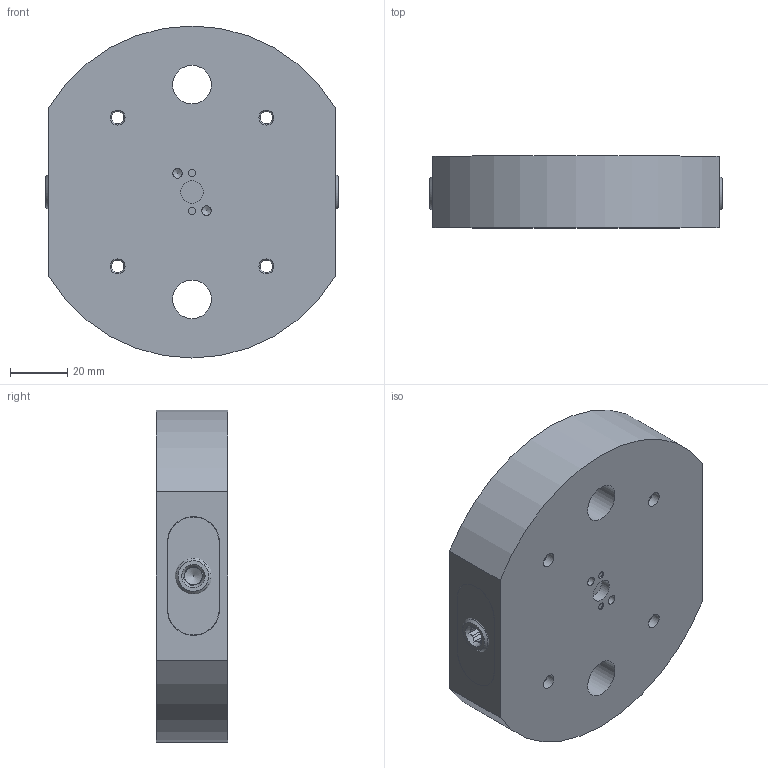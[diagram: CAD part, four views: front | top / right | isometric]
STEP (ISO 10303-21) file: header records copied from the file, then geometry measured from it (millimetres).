
FILE_DESCRIPTION (( 'STEP AP214' ), '1' );
FILE_NAME ('RL52S-4-12_WEBSITE.STEP', '2025-08-11T11:58:21', ( '' ), ( '' ), 'SwSTEP 2.0', 'SolidWorks 2025', '' );
FILE_SCHEMA (( 'AUTOMOTIVE_DESIGN' ));
Length unit declared in the file: millimetre
Products named in the file (11): D_RL52-14S-12_WEBSITE; D_RL52-2L_WEBSITE; 9452K168-Base-O-Ring_WEBSITE; RL52S-4-12_WEBSITE; D_RL52-2R_WEBSITE; D_RL52-ASSY_WEBSITE; 9452K77-Truck-O-Ring_WEBSITE; D_RL52-3_WEBSITE; D_HW22X16.DB_WEBSITE; 9750K720_PLASTIC ROUND PLUG_WEBSITE_9750K72; D_SB43_WEBSITE_92981A144
Assembly tree (17 placements, depth 3):
  RL52S-4-12_WEBSITE
    D_RL52-14S-12_WEBSITE
    D_RL52-ASSY_WEBSITE
      D_RL52-2L_WEBSITE
      D_RL52-2R_WEBSITE
      D_RL52-3_WEBSITE
      D_HW22X16.DB_WEBSITE  x4
      D_SB43_WEBSITE_92981A144  x2
    9452K168-Base-O-Ring_WEBSITE  x4
    9452K77-Truck-O-Ring_WEBSITE  x2
  9750K720_PLASTIC ROUND PLUG_WEBSITE_9750K72
Bounding box: 102.11 x 25 x 116 mm (x, y, z)
Volume: 209732.2 mm3; surface area: 62236.9 mm2
Topology: 18 solids, 18 shells, 268 faces, 574 edges, 357 vertices
Faces by surface type: plane 153, cylinder 85, cone 22, torus 6, bspline 2
Full cylindrical faces by diameter (mm): 0.254 x2, 2.5 x2, 3 x2, 3.3 x2, 4 x2, 4.089 x2, 5.182 x4, 6 x2, 6.147 x2, 7 x2, 8.026 x1, 8.89 x1, 9.144 x4, 9.525 x4, 12 x2, 13.492 x2, 13.754 x2, 15.24 x2, 15.291 x4, 15.875 x1, 16.002 x4, 16.03 x4, 20.637 x2, 21.981 x4, 21.994 x4, 22.047 x4
Entity records: 7588 total; most frequent: CARTESIAN_POINT 2301, DIRECTION 1064, ORIENTED_EDGE 836, AXIS2_PLACEMENT_3D 437, EDGE_CURVE 418, EDGE_LOOP 358, VERTEX_POINT 300, FACE_OUTER_BOUND 286
